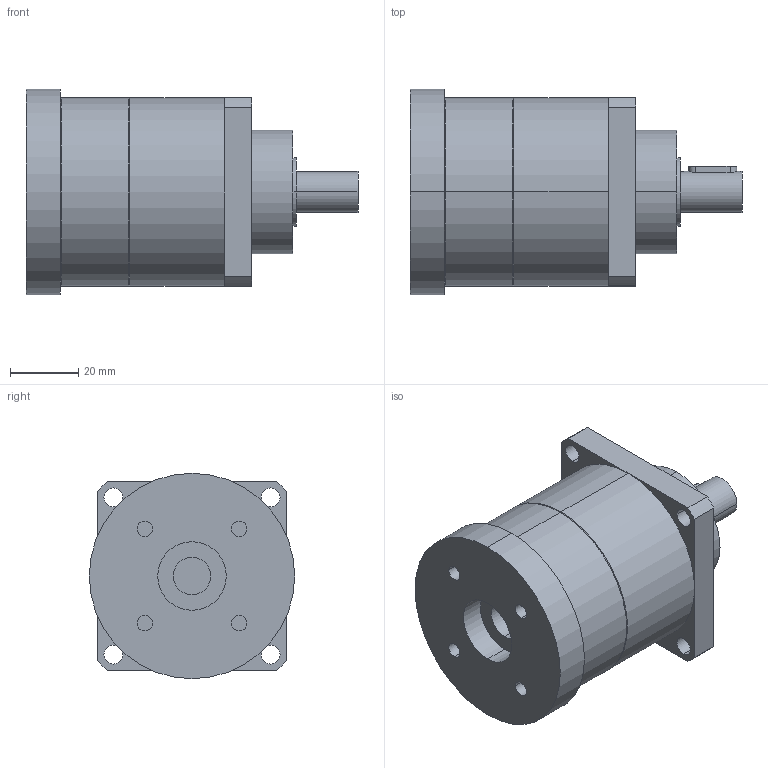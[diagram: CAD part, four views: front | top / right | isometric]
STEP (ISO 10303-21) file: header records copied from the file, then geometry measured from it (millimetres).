
FILE_DESCRIPTION(('CoCreate Modeling STEP Export'),'2;1');
FILE_NAME('GPT55_ig-3-4-5-7-10_12_B5A_11_P14.stp','2014-08-25T14:31:21',(''),(''),'CoCreate Modeling STEP processor for AP214 (Solid Model)','CoCreate Modeling 16.00C 25-Feb-2009 (C) Parametric Technology GmbH','');
FILE_SCHEMA(('AUTOMOTIVE_DESIGN { 1 0 10303 214 1 1 1 1 }'));
Length unit declared in the file: millimetre
Products named in the file (2): GPT55_ig-3-4-5-7-10_12_B5A_11_P14
Assembly tree (1 placements, depth 2):
  GPT55_ig-3-4-5-7-10_12_B5A_11_P14
    GPT55_ig-3-4-5-7-10_12_B5A_11_P14
Bounding box: 97 x 60 x 60 mm (x, y, z)
Volume: 175124.1 mm3; surface area: 23400.8 mm2
Topology: 1 solids, 1 shells, 69 faces, 173 edges, 118 vertices
Faces by surface type: cylinder 40, plane 25, cone 4
Entity records: 2172 total; most frequent: CARTESIAN_POINT 651, ORIENTED_EDGE 346, DIRECTION 260, EDGE_CURVE 173, VERTEX_POINT 118, AXIS2_PLACEMENT_3D 97, EDGE_LOOP 89, FACE_OUTER_BOUND 69
